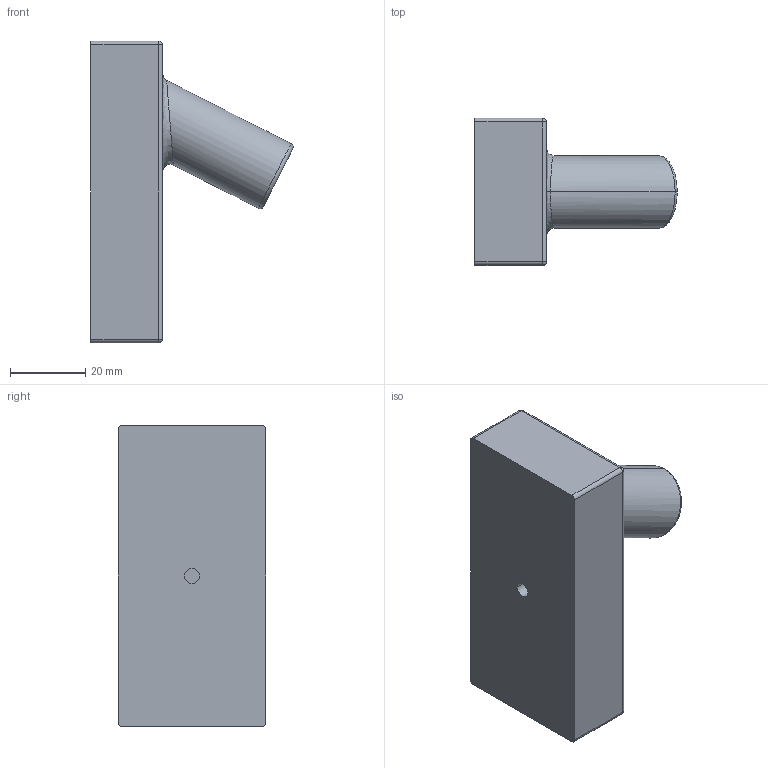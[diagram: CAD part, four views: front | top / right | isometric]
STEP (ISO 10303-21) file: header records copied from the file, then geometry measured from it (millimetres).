
FILE_DESCRIPTION((''),'2;1');
FILE_NAME('CH-1007','2022-11-18T09:13:04',('Administrator'),(''),'CREO PARAMETRIC BY PTC INC, 2019010','CREO PARAMETRIC BY PTC INC, 2019010','');
FILE_SCHEMA(('CONFIG_CONTROL_DESIGN'));
Length unit declared in the file: millimetre
Products named in the file (1): CH-1007
Bounding box: 53.65 x 39 x 80 mm (x, y, z)
Volume: 69129.6 mm3; surface area: 12672.1 mm2
Topology: 1 solids, 1 shells, 28 faces, 56 edges, 32 vertices
Faces by surface type: cylinder 12, plane 8, sphere 4, bspline 2, torus 2
Entity records: 1132 total; most frequent: CARTESIAN_POINT 506, DIRECTION 132, ORIENTED_EDGE 112, EDGE_CURVE 56, AXIS2_PLACEMENT_3D 54, VERTEX_POINT 32, EDGE_LOOP 30, FACE_OUTER_BOUND 28
